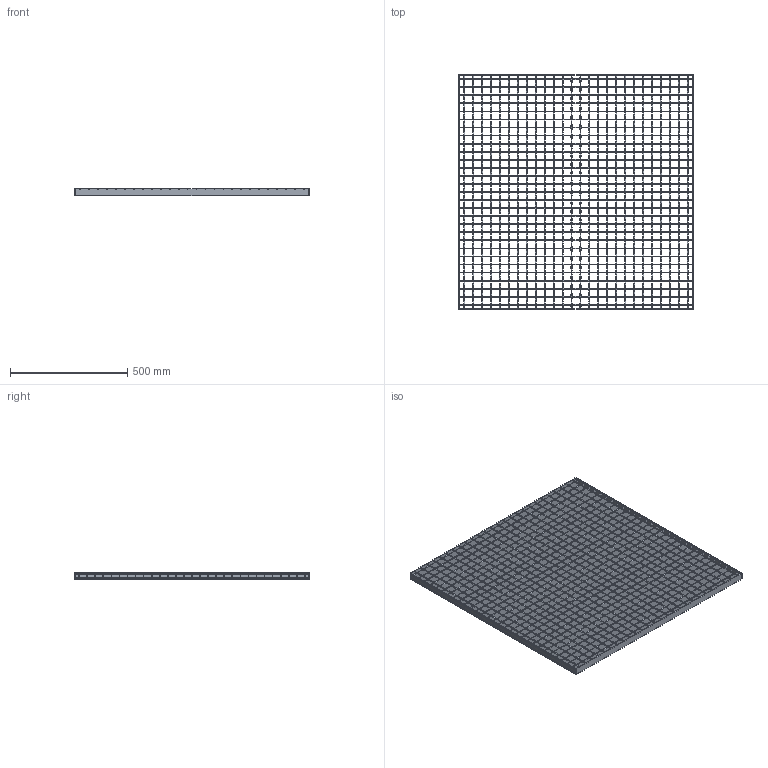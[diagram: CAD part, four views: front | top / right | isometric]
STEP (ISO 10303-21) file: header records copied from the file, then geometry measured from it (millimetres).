
FILE_DESCRIPTION(/* description */ ('STEP AP242','CAx-IF Rec.Pracs.---Representation and Presentation of Product Manufacturing Information (PMI)---4.0---2014-10-13','CAx-IF Rec.Pracs.---3D Tessellated Geometry---0.4---2014-09-14','2;1'),/* implementation_level */ '2;1');
FILE_NAME(/* name */ 'Lichtgitter_Forge_welded_gratings SP 330-34_38-3-1-1-1000-1000_(350_1_0)',/* time_stamp */ '2026-04-23T13:49:30+02:00',/* author */ ('License CC BY-ND 4.0'),/* organization */ ('CADENAS'),/* preprocessor_version */ 'ST-DEVELOPER v20',/* originating_system */ 'PARTsolutions',/* authorisation */ ' ');
FILE_SCHEMA (('AP242_MANAGED_MODEL_BASED_3D_ENGINEERING_MIM_LF { 1 0 10303 442 1 1 4 }'));
Length unit declared in the file: millimetre
Products named in the file (5): Lichtgitter_Forge_welded_gratings SP 330-34/38-3-1-1-1000-1000_(350_1
_0); Lichtgitter SP 330-34/38-3_(350_1_2_1000_1000_Schweisspressroste)_VER
TICAL_SIDES; Lichtgitter SP 330-34/38-3_(350_1_2_1000_1000_Schweisspressroste)_HOR
IZONTAL_C; Lichtgitter SP 330-34/38-3_(350_1_2_1000_1000_Schweisspressroste)_HOR
IZONTAL_SIDES; Lichtgitter SP 3.46530-34/38-3.465_(350_1_2_1000_1000_Schweisspressro
ste)_VERTICAL_C
Assembly tree (59 placements, depth 2):
  Lichtgitter_Forge_welded_gratings SP 330-34/38-3-1-1-1000-1000_(350_1
_0)
    Lichtgitter SP 330-34/38-3_(350_1_2_1000_1000_Schweisspressroste)_VER
TICAL_SIDES  x2
    Lichtgitter SP 330-34/38-3_(350_1_2_1000_1000_Schweisspressroste)_HOR
IZONTAL_C  x29
    Lichtgitter SP 330-34/38-3_(350_1_2_1000_1000_Schweisspressroste)_HOR
IZONTAL_SIDES  x2
    Lichtgitter SP 3.46530-34/38-3.465_(350_1_2_1000_1000_Schweisspressro
ste)_VERTICAL_C  x26
Bounding box: 1000 x 1000 x 30.72 mm (x, y, z)
Volume: 3190253.2 mm3; surface area: 2509983.1 mm2
Topology: 59 solids, 59 shells, 6982 faces, 15496 edges, 8632 vertices
Faces by surface type: bspline 5200, plane 1012, cylinder 770
Entity records: 8859 total; most frequent: CARTESIAN_POINT 2744, ORIENTED_EDGE 1264, DIRECTION 984, EDGE_CURVE 632, LINE 560, VECTOR 560, VERTEX_POINT 356, EDGE_LOOP 284
